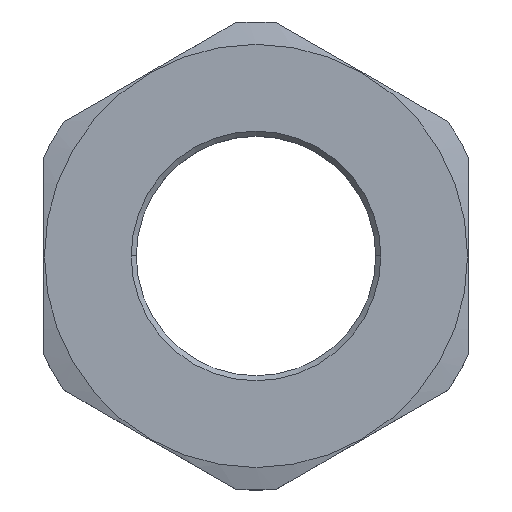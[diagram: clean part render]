
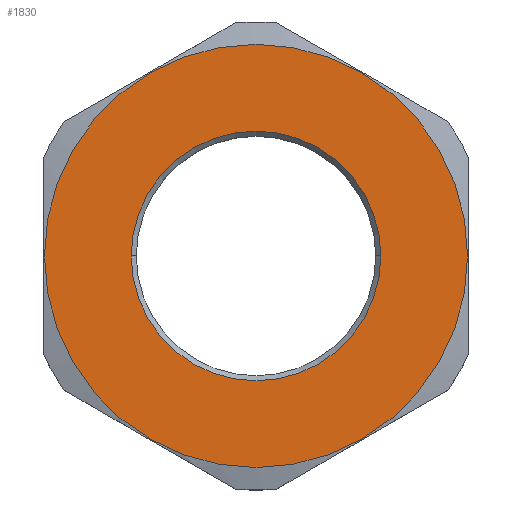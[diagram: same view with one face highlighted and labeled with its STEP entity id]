
A CAD part, top view. The second image highlights one B-rep face of the part: STEP entity #1830.
In plain terms, the highlighted planar face has unit normal (0, 0, 1).
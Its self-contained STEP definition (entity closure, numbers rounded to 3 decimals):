
#24 = VERTEX_POINT ( 'NONE', #1953 ) ;
#67 = VERTEX_POINT ( 'NONE', #2011 ) ;
#75 = VERTEX_POINT ( 'NONE', #2054 ) ;
#86 = VERTEX_POINT ( 'NONE', #2034 ) ;
#93 = EDGE_CURVE ( 'NONE', #24, #67, #2058, .T. ) ;
#103 = EDGE_CURVE ( 'NONE', #86, #75, #2110, .T. ) ;
#1238 = DIRECTION ( 'NONE',  ( 1., 0., 0. ) ) ;
#1240 = DIRECTION ( 'NONE',  ( 0., 0., 1. ) ) ;
#1242 = CARTESIAN_POINT ( 'NONE',  ( 0., 0., 0. ) ) ;
#1244 = AXIS2_PLACEMENT_3D ( 'NONE', #1242, #1240, #1238 ) ;
#1247 = CIRCLE ( 'NONE', #1244, 20. ) ;
#1251 = DIRECTION ( 'NONE',  ( -1., 0., 0. ) ) ;
#1253 = DIRECTION ( 'NONE',  ( 0., 0., -1. ) ) ;
#1255 = CARTESIAN_POINT ( 'NONE',  ( 0., 0., 0. ) ) ;
#1257 = AXIS2_PLACEMENT_3D ( 'NONE', #1255, #1253, #1251 ) ;
#1258 = PLANE ( 'NONE',  #1257 ) ;
#1265 = FACE_OUTER_BOUND ( 'NONE', #1821, .T. ) ;
#1266 = FACE_BOUND ( 'NONE', #1839, .T. ) ;
#1324 = DIRECTION ( 'NONE',  ( 1., 0., 0. ) ) ;
#1325 = DIRECTION ( 'NONE',  ( 0., 0., 1. ) ) ;
#1326 = AXIS2_PLACEMENT_3D ( 'NONE', #1340, #1325, #1324 ) ;
#1336 = CIRCLE ( 'NONE', #1326, 33.9 ) ;
#1340 = CARTESIAN_POINT ( 'NONE',  ( 0., 0., 0. ) ) ;
#1820 = ORIENTED_EDGE ( 'NONE', *, *, #103, .F. ) ;
#1821 = EDGE_LOOP ( 'NONE', ( #1822, #1823 ) ) ;
#1822 = ORIENTED_EDGE ( 'NONE', *, *, #1835, .T. ) ;
#1823 = ORIENTED_EDGE ( 'NONE', *, *, #93, .T. ) ;
#1830 = ADVANCED_FACE ( 'NONE', ( #1266, #1265 ), #1258, .F. ) ;
#1831 = ORIENTED_EDGE ( 'NONE', *, *, #1832, .F. ) ;
#1832 = EDGE_CURVE ( 'NONE', #75, #86, #1247, .T. ) ;
#1835 = EDGE_CURVE ( 'NONE', #67, #24, #1336, .T. ) ;
#1839 = EDGE_LOOP ( 'NONE', ( #1831, #1820 ) ) ;
#1953 = CARTESIAN_POINT ( 'NONE',  ( 33.9, 0., 0. ) ) ;
#2011 = CARTESIAN_POINT ( 'NONE',  ( -33.9, 0., 0. ) ) ;
#2034 = CARTESIAN_POINT ( 'NONE',  ( -20., 0., 0. ) ) ;
#2054 = CARTESIAN_POINT ( 'NONE',  ( 20., 0., 0. ) ) ;
#2058 = CIRCLE ( 'NONE', #2071, 33.9 ) ;
#2068 = DIRECTION ( 'NONE',  ( 1., 0., 0. ) ) ;
#2069 = DIRECTION ( 'NONE',  ( 0., 0., 1. ) ) ;
#2070 = CARTESIAN_POINT ( 'NONE',  ( 0., 0., 0. ) ) ;
#2071 = AXIS2_PLACEMENT_3D ( 'NONE', #2070, #2069, #2068 ) ;
#2101 = DIRECTION ( 'NONE',  ( 0., 0., 1. ) ) ;
#2102 = CARTESIAN_POINT ( 'NONE',  ( 0., 0., 0. ) ) ;
#2103 = AXIS2_PLACEMENT_3D ( 'NONE', #2102, #2101, #2112 ) ;
#2110 = CIRCLE ( 'NONE', #2103, 20. ) ;
#2112 = DIRECTION ( 'NONE',  ( 1., 0., 0. ) ) ;
